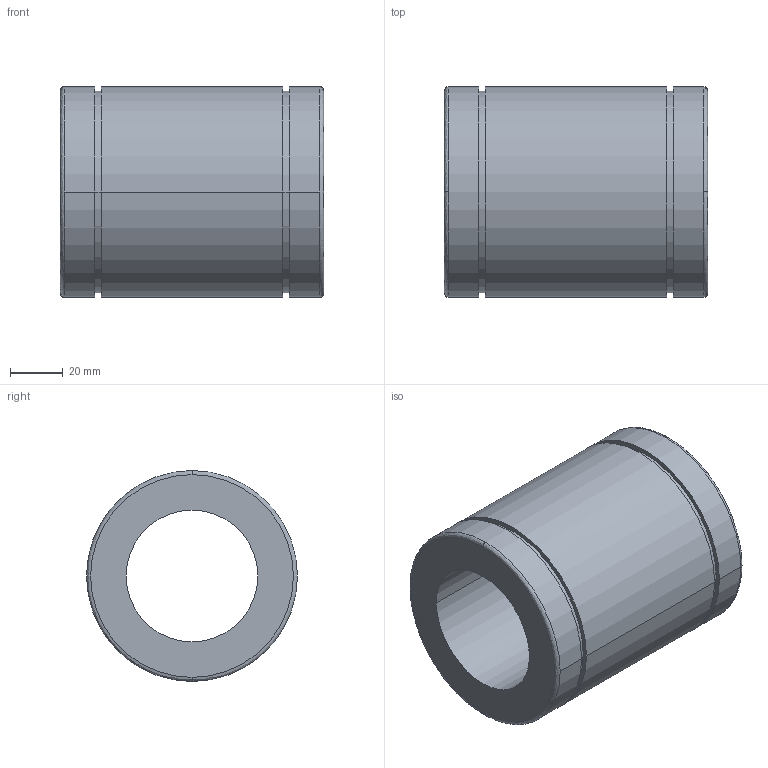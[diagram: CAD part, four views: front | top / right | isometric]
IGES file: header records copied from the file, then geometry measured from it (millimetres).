
Start section: 3D InterOp IGES (Version 21 0 1), Spatial Corp. Copyright (c) 1999-2007.
Global section: file name: N-50HUU.igs; native system: Spatial Corp.; preprocessor: 3D InterOp GENERIC/IGES 3.0; author: Noname; organization: Noname; date: 20220311.144821; units: millimetre
Bounding box: 100 x 80 x 80 mm (x, y, z)
Surface area: 48304.8 mm2 (no closed solid volume)
Topology: 0 solids, 0 shells, 22 faces, 100 edges, 100 vertices
Faces by surface type: revolution 16, extrusion 6
